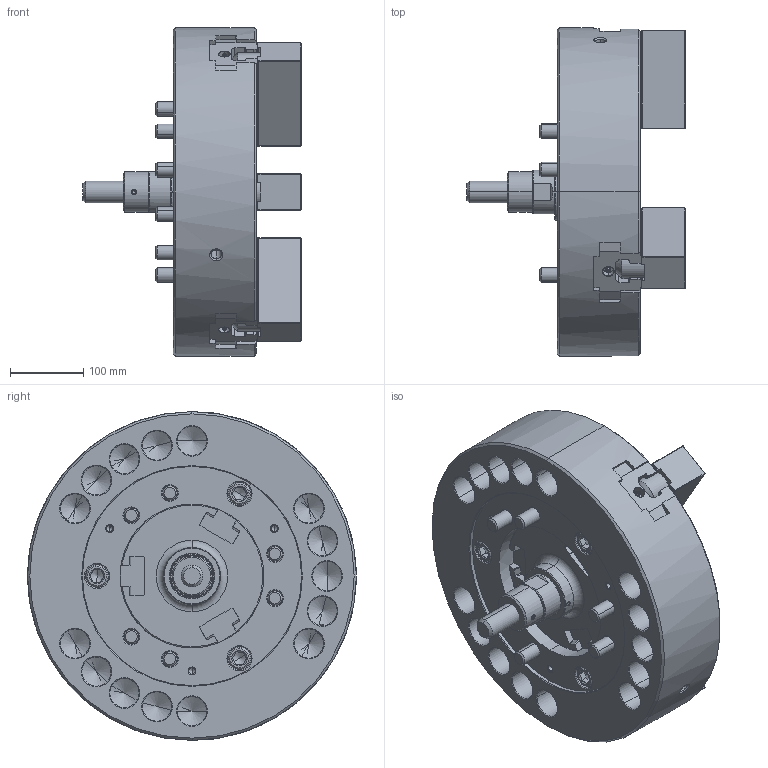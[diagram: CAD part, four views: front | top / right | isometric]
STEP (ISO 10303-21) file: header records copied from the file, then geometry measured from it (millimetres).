
FILE_DESCRIPTION (( 'STEP AP214' ), '1' );
FILE_NAME ('DT1_N-18_OUTSIDE_VIEW_HCL.STEP', '2026-03-13T00:52:23', ( '' ), ( '' ), 'SwSTEP 2.0', 'SolidWorks 2022', '' );
FILE_SCHEMA (( 'AUTOMOTIVE_DESIGN' ));
Length unit declared in the file: millimetre
Products named in the file (11): DT1_N-18_BASE^DT1_N-18; DT1_N-18_M6x12^DT1_N-18; DT1_N-18_DN^DT1_N-18; DT1_N-18_M20x115^DT1_N-18; DT1_N-18_TNUT^DT1_N-18; DT1_N-18_COVER^DT1_N-18; DT1_N-18_OUTSIDE_VIEW_HCL; DT1_N-18_M20x55^DT1_N-18; Copy of 61P321208^DT1_N-18; DT1_N-18_DRAWSCREW^DT1_N-18; DT1_N-18_SOFTJAW^DT1_N-18
Assembly tree (29 placements, depth 2):
  DT1_N-18_OUTSIDE_VIEW_HCL
    DT1_N-18_SOFTJAW^DT1_N-18  x3
    DT1_N-18_TNUT^DT1_N-18  x6
    DT1_N-18_COVER^DT1_N-18
    DT1_N-18_DRAWSCREW^DT1_N-18
    Copy of 61P321208^DT1_N-18
    DT1_N-18_DN^DT1_N-18
    DT1_N-18_BASE^DT1_N-18
    DT1_N-18_M6x12^DT1_N-18  x3
    DT1_N-18_M20x115^DT1_N-18  x6
    DT1_N-18_M20x55^DT1_N-18  x6
Bounding box: 298.5 x 450 x 450 mm (x, y, z)
Volume: 16984456.6 mm3; surface area: 1219899.3 mm2
Topology: 29 solids, 35 shells, 7051 faces, 19888 edges, 13053 vertices
Faces by surface type: plane 5015, cylinder 868, bspline 599, cone 501, torus 62, sphere 6
Entity records: 200610 total; most frequent: CARTESIAN_POINT 64112, ORIENTED_EDGE 31016, DIRECTION 23838, EDGE_CURVE 15508, LINE 11822, VECTOR 11822, VERTEX_POINT 10219, AXIS2_PLACEMENT_3D 6008
